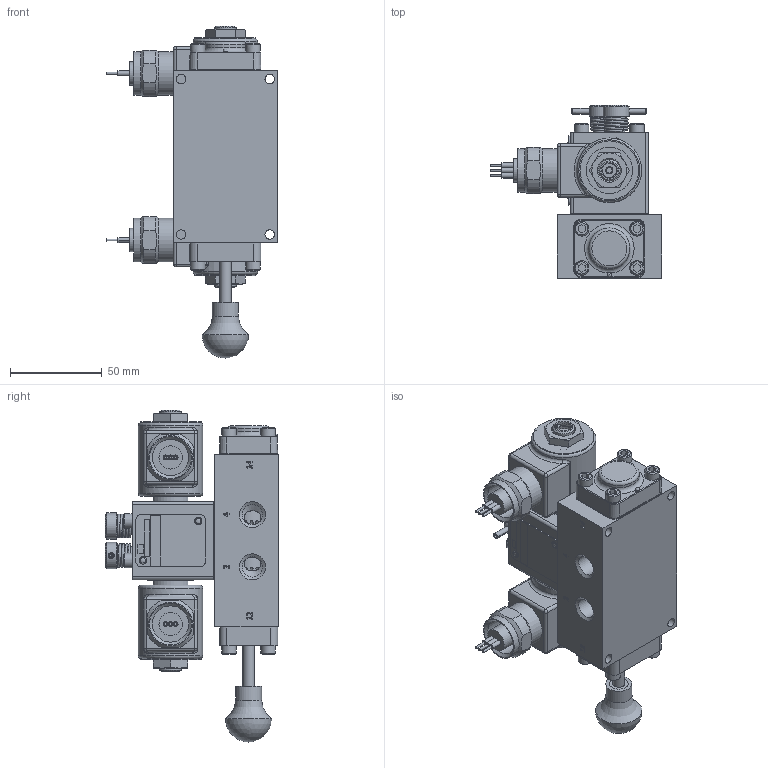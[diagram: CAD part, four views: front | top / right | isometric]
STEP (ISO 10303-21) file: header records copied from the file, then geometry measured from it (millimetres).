
FILE_DESCRIPTION(/* description */ (''),/* implementation_level */ '2;1');
FILE_NAME(/* name */ 'D:\Website New\Valves\Classic\SS\stp\SS2MONTOS.stp',/* time_stamp */ '2020-04-19T22:34:06-04:00',/* author */ ('RMcKenna'),/* organization */ (''),/* preprocessor_version */ 'ST-DEVELOPER v17',/* originating_system */ 'Autodesk Inventor 2018',/* authorisation */ '');
FILE_SCHEMA (('AUTOMOTIVE_DESIGN { 1 0 10303 214 3 1 1 }'));
Products named in the file (1): Part25
Bounding box: 93.59 x 94.58 x 181.39 mm (x, y, z)
Volume: 391679 mm3; surface area: 119849.3 mm2
Topology: 3 solids, 38 shells, 1872 faces, 4760 edges, 3118 vertices
Faces by surface type: plane 856, cylinder 407, cone 333, bspline 148, torus 116, sphere 12
Full cylindrical faces by diameter (mm): 1.041 x2, 1.321 x2, 1.346 x6, 1.397 x2, 2.07 x2, 2.261 x2, 2.35 x2, 2.718 x2, 2.769 x2, 2.778 x2, 3.048 x4, 3.175 x8, 3.302 x4, 3.683 x12, 3.912 x1, 3.962 x2, 4.366 x9, 4.826 x16, 4.978 x1, 5.105 x4, 5.156 x12, 5.159 x5, 5.537 x7, 5.639 x2, 6.35 x2, 6.629 x4, 7.671 x1, 7.938 x12, 7.95 x3, 9.144 x2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
Entity records: 66815 total; most frequent: CARTESIAN_POINT 20273, ORIENTED_EDGE 9444, DIRECTION 9125, EDGE_CURVE 4722, AXIS2_PLACEMENT_3D 3429, VERTEX_POINT 3118, LINE 2267, VECTOR 2267
